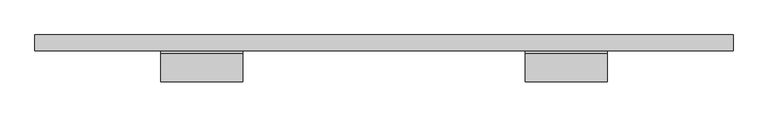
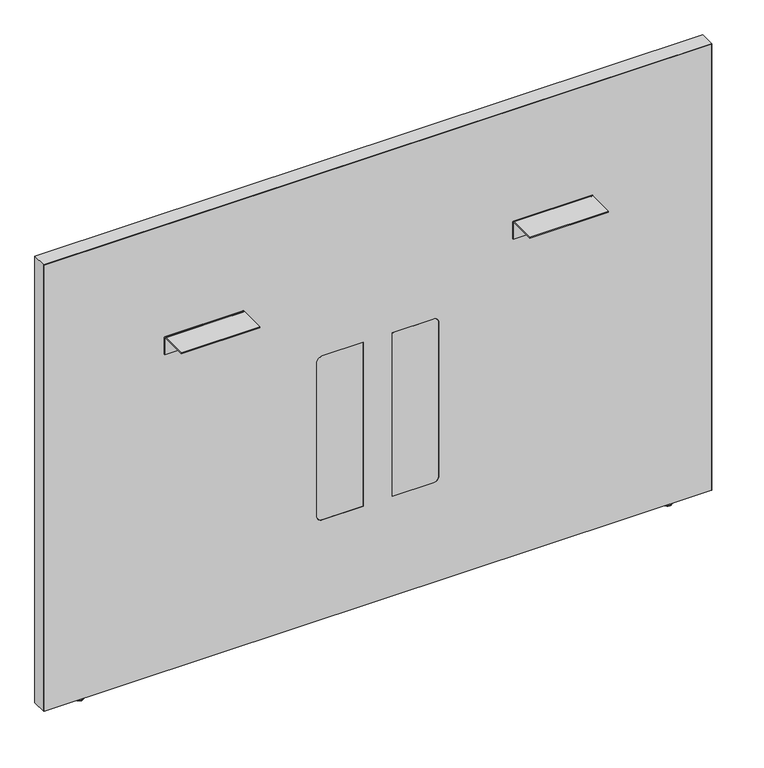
"""IFC4 building model written with IfcOpenShell, lengths in millimetres: furniture geometry, Steelcase - Answer Solution - Boundary Screen - Straight - Spanning : 36H x 51W."""

from ifc_helpers import new_model, si_unit, point, frame, frame_2d, origin, place, context, project, spatial, polyline, circle_curve, ellipse_curve, trimmed, segment, composite_curve, outline, extrude, source, transform, mapped, element, save
from ifc_brep_helpers import plane_surface, cylinder_surface, revolved_surface, advanced_brep


def furniture_a9efb115(model_context):
    return source(origin(), model_context, "Body", "SolidModel", [
        advanced_brep(
        [(-340.6902705, -14.8449166, 9.9059849), (-340.6902705, -5.9309607, 9.9059849), (-340.6902705, -23.7588726, 9.9059849), (-340.6902705, -5.9309607, 2.9673238), (-340.6902705, -23.7588726, 2.9673238), (-340.6902705, -6.8982978, 2.9673238), (-340.6902705, -22.7915354, 2.9673238), (-340.6902705, -6.8982978, 1.6569081), (-340.6902705, -22.7915354, 1.6569081), (-340.6902705, -8.5552059, 0.0), (-340.6902705, -21.1346274, 0.0), (-340.6902705, -14.8449166, 0.0)],
        [
            (0, 1),
            (1, 2, circle_curve(frame((-340.6902705, -14.8449166, 9.9059849), z_axis=(0.0, 0.0, 1.0), x_axis=(0.0, 1.0, 0.0)), 8.913956)),
            (2, 0),
            (2, 1, circle_curve(frame((-340.6902705, -14.8449166, 9.9059849), z_axis=(0.0, 0.0, 1.0), x_axis=(0.0, 1.0, 0.0)), 8.913956)),
            (1, 3),
            (3, 4, circle_curve(frame((-340.6902705, -14.8449166, 2.9673238), z_axis=(0.0, 0.0, 1.0), x_axis=(0.0, 1.0, 0.0)), 8.913956)),
            (4, 2),
            (4, 3, circle_curve(frame((-340.6902705, -14.8449166, 2.9673238), z_axis=(0.0, 0.0, 1.0), x_axis=(0.0, 1.0, 0.0)), 8.913956)),
            (3, 5),
            (5, 6, circle_curve(frame((-340.6902705, -14.8449166, 2.9673238), z_axis=(0.0, 0.0, 1.0), x_axis=(0.0, 1.0, 0.0)), 7.9466188)),
            (6, 4),
            (6, 5, circle_curve(frame((-340.6902705, -14.8449166, 2.9673238), z_axis=(0.0, 0.0, 1.0), x_axis=(0.0, 1.0, 0.0)), 7.9466188)),
            (5, 7),
            (7, 8, circle_curve(frame((-340.6902705, -14.8449166, 1.6569081), z_axis=(0.0, 0.0, 1.0), x_axis=(0.0, 1.0, 0.0)), 7.9466188)),
            (8, 6),
            (8, 7, circle_curve(frame((-340.6902705, -14.8449166, 1.6569081), z_axis=(0.0, 0.0, 1.0), x_axis=(0.0, 1.0, 0.0)), 7.9466188)),
            (7, 9, circle_curve(frame((-340.6902705, -8.5552059, 1.6569081), z_axis=(-1.0, 0.0, 0.0), x_axis=(0.0, 1.0, 0.0)), 1.6569081)),
            (9, 10, circle_curve(frame((-340.6902705, -14.8449166, 0.0), z_axis=(0.0, 0.0, 1.0), x_axis=(0.0, 1.0, 0.0)), 6.2897107)),
            (10, 8, circle_curve(frame((-340.6902705, -21.1346274, 1.6569081), z_axis=(-1.0, 0.0, 0.0), x_axis=(0.0, -1.0, 0.0)), 1.6569081)),
            (10, 9, circle_curve(frame((-340.6902705, -14.8449166, 0.0), z_axis=(0.0, 0.0, 1.0), x_axis=(0.0, 1.0, 0.0)), 6.2897107)),
            (9, 11),
            (11, 10),
        ],
        [
            plane_surface(frame((-340.6902705, -14.8449166, 9.9059849), z_axis=(0.0, 0.0, 1.0), x_axis=(0.0, 1.0, 0.0))),
            cylinder_surface(frame((-340.6902705, -14.8449166, 9.9059849), z_axis=(0.0, 0.0, 1.0), x_axis=(0.0, 1.0, 0.0)), 8.913956),
            plane_surface(frame((-340.6902705, -14.8449166, 2.9673238), z_axis=(0.0, 0.0, -1.0), x_axis=(0.0, 1.0, 0.0))),
            cylinder_surface(frame((-340.6902705, -14.8449166, 9.9059849), z_axis=(0.0, 0.0, 1.0), x_axis=(0.0, 1.0, 0.0)), 7.9466188),
            revolved_surface(trimmed(ellipse_curve(frame((-340.6902705, -8.5552059, 1.6569081), z_axis=(1.0, 0.0, 0.0), x_axis=(0.0, 1.0, 0.0)), 1.6569081, 1.6569081), [point((-340.6902705, -8.5552059, 0.0))], [point((-340.6902705, -6.8982978, 1.6569081))], True, "CARTESIAN"), (-340.6902705, -14.8449166, 9.9059849), (0.0, 0.0, 1.0)),
            plane_surface(frame((-340.6902705, -14.8449166, 0.0), z_axis=(0.0, 0.0, -1.0), x_axis=(0.0, 1.0, 0.0))),
        ],
        [
            (0, [[1, 2, 3]]),
            (0, [[-3, 4, -1]]),
            (1, [[-2, 5, 6, 7]]),
            (1, [[-4, -7, 8, -5]]),
            (2, [[-6, 9, 10, 11]]),
            (2, [[-8, -11, 12, -9]]),
            (3, [[-10, 13, 14, 15]]),
            (3, [[-12, -15, 16, -13]]),
            (4, [[-14, 17, 18, 19]]),
            (4, [[-16, -19, 20, -17]]),
            (5, [[-18, 21, 22]]),
            (5, [[-20, -22, -21]]),
        ],
    ),
        extrude(outline(composite_curve([segment(polyline([(-86.8398151, 696.4680019), (-86.8398151, 698.5), (-34.9450855, 698.5)]), True, "CONTINUOUS"), segment(trimmed(circle_curve(frame_2d((-34.9450855, 693.2447477)), 5.2552523), [point((-34.9450855, 698.5))], [point((-29.6898332, 693.2447477))], False, "CARTESIAN"), True, "CONTINUOUS"), segment(polyline([(-29.6898332, 693.2447477), (-29.6898332, 660.4), (-31.7218162, 660.4), (-31.7218162, 693.0058743)]), True, "CONTINUOUS"), segment(trimmed(circle_curve(frame_2d((-35.1839438, 693.0058743)), 3.4621276), [point((-31.7218162, 693.0058743))], [point((-35.1839438, 696.4680019))], True, "CARTESIAN"), True, "CONTINUOUS"), segment(polyline([(-35.1839438, 696.4680019), (-86.8398151, 696.4680019)]), True, "CONTINUOUS")], self_intersect=False)), frame((491.6282189, 0.0, 0.0), z_axis=(1.0, 0.0, 0.0), x_axis=(0.0, 1.0, 0.0)), (0.0, 0.0, 1.0), 152.4000969),
        extrude(outline(composite_curve([segment(polyline([(-86.8398151, 696.4680019), (-86.8398151, 698.5), (-34.9450855, 698.5)]), True, "CONTINUOUS"), segment(trimmed(circle_curve(frame_2d((-34.9450855, 693.2447477)), 5.2552523), [point((-34.9450855, 698.5))], [point((-29.6898332, 693.2447477))], False, "CARTESIAN"), True, "CONTINUOUS"), segment(polyline([(-29.6898332, 693.2447477), (-29.6898332, 660.4), (-31.7218162, 660.4), (-31.7218162, 693.0058743)]), True, "CONTINUOUS"), segment(trimmed(circle_curve(frame_2d((-35.1839438, 693.0058743)), 3.4621276), [point((-31.7218162, 693.0058743))], [point((-35.1839438, 696.4680019))], True, "CARTESIAN"), True, "CONTINUOUS"), segment(polyline([(-35.1839438, 696.4680019), (-86.8398151, 696.4680019)]), True, "CONTINUOUS")], self_intersect=False)), frame((-184.3884581, 0.0, 0.0), z_axis=(1.0, 0.0, 0.0), x_axis=(0.0, 1.0, 0.0)), (0.0, 0.0, 1.0), 152.4000969),
        advanced_brep(
        [(800.3286488, -23.7588726, 9.9059849), (800.3286488, -5.9309607, 9.9059849), (800.3286488, -14.8449166, 9.9059849), (800.3286488, -23.7588726, 2.9673238), (800.3286488, -5.9309607, 2.9673238), (800.3286488, -22.7915354, 2.9673238), (800.3286488, -6.8982978, 2.9673238), (800.3286488, -22.7915354, 1.6569081), (800.3286488, -6.8982978, 1.6569081), (800.3286488, -21.1346274, 0.0), (800.3286488, -8.5552059, 0.0), (800.3286488, -14.8449166, 0.0)],
        [
            (0, 1, circle_curve(frame((800.3286488, -14.8449166, 9.9059849), z_axis=(0.0, 0.0, 1.0), x_axis=(0.0, 1.0, 0.0)), 8.913956)),
            (1, 2),
            (2, 0),
            (1, 0, circle_curve(frame((800.3286488, -14.8449166, 9.9059849), z_axis=(0.0, 0.0, 1.0), x_axis=(0.0, 1.0, 0.0)), 8.913956)),
            (3, 4, circle_curve(frame((800.3286488, -14.8449166, 2.9673238), z_axis=(0.0, 0.0, 1.0), x_axis=(0.0, 1.0, 0.0)), 8.913956)),
            (4, 1),
            (0, 3),
            (4, 3, circle_curve(frame((800.3286488, -14.8449166, 2.9673238), z_axis=(0.0, 0.0, 1.0), x_axis=(0.0, 1.0, 0.0)), 8.913956)),
            (5, 6, circle_curve(frame((800.3286488, -14.8449166, 2.9673238), z_axis=(0.0, 0.0, 1.0), x_axis=(0.0, 1.0, 0.0)), 7.9466188)),
            (6, 4),
            (3, 5),
            (6, 5, circle_curve(frame((800.3286488, -14.8449166, 2.9673238), z_axis=(0.0, 0.0, 1.0), x_axis=(0.0, 1.0, 0.0)), 7.9466188)),
            (7, 8, circle_curve(frame((800.3286488, -14.8449166, 1.6569081), z_axis=(0.0, 0.0, 1.0), x_axis=(0.0, 1.0, 0.0)), 7.9466188)),
            (8, 6),
            (5, 7),
            (8, 7, circle_curve(frame((800.3286488, -14.8449166, 1.6569081), z_axis=(0.0, 0.0, 1.0), x_axis=(0.0, 1.0, 0.0)), 7.9466188)),
            (9, 10, circle_curve(frame((800.3286488, -14.8449166, 0.0), z_axis=(0.0, 0.0, 1.0), x_axis=(0.0, 1.0, 0.0)), 6.2897107)),
            (10, 8, circle_curve(frame((800.3286488, -8.5552059, 1.6569081), z_axis=(1.0, 0.0, 0.0), x_axis=(0.0, 1.0, 0.0)), 1.6569081)),
            (7, 9, circle_curve(frame((800.3286488, -21.1346274, 1.6569081), z_axis=(1.0, 0.0, 0.0), x_axis=(0.0, -1.0, 0.0)), 1.6569081)),
            (10, 9, circle_curve(frame((800.3286488, -14.8449166, 0.0), z_axis=(0.0, 0.0, 1.0), x_axis=(0.0, 1.0, 0.0)), 6.2897107)),
            (11, 10),
            (9, 11),
        ],
        [
            plane_surface(frame((800.3286488, -14.8449166, 9.9059849), z_axis=(0.0, 0.0, 1.0), x_axis=(0.0, 1.0, 0.0))),
            cylinder_surface(frame((800.3286488, -14.8449166, 9.9059849), z_axis=(0.0, 0.0, -1.0), x_axis=(0.0, 1.0, 0.0)), 8.913956),
            plane_surface(frame((800.3286488, -14.8449166, 2.9673238), z_axis=(0.0, 0.0, -1.0), x_axis=(0.0, 1.0, 0.0))),
            cylinder_surface(frame((800.3286488, -14.8449166, 9.9059849), z_axis=(0.0, 0.0, -1.0), x_axis=(0.0, 1.0, 0.0)), 7.9466188),
            revolved_surface(trimmed(ellipse_curve(frame((800.3286488, -8.5552059, 1.6569081), z_axis=(-1.0, 0.0, 0.0), x_axis=(0.0, 1.0, 0.0)), 1.6569081, 1.6569081), [point((800.3286488, -6.8982978, 1.6569081))], [point((800.3286488, -8.5552059, 0.0))], True, "CARTESIAN"), (800.3286488, -14.8449166, 9.9059849), (0.0, 0.0, -1.0)),
            plane_surface(frame((800.3286488, -14.8449166, 0.0), z_axis=(0.0, 0.0, -1.0), x_axis=(0.0, 1.0, 0.0))),
        ],
        [
            (0, [[1, 2, 3]]),
            (0, [[4, -3, -2]]),
            (1, [[5, 6, -1, 7]]),
            (1, [[8, -7, -4, -6]]),
            (2, [[9, 10, -5, 11]]),
            (2, [[12, -11, -8, -10]]),
            (3, [[13, 14, -9, 15]]),
            (3, [[16, -15, -12, -14]]),
            (4, [[17, 18, -13, 19]]),
            (4, [[20, -19, -16, -18]]),
            (5, [[21, -17, 22]]),
            (5, [[-22, -20, -21]]),
        ],
    ),
        advanced_brep(
        [(876.4780168, 0.0, 924.342118), (876.4780168, 0.0, 9.9059849), (-416.8902221, 0.0, 9.9059849), (-416.8902221, 0.0, 924.342118), (876.4780168, -29.6898332, 924.342118), (-416.8902221, -29.6898332, 924.342118), (-416.8902221, -29.6898332, 9.9059849), (876.4780168, -29.6898332, 9.9059849), (337.7883813, -29.6898332, 549.6162029), (347.9483813, -29.6898332, 539.4562029), (347.9483813, -29.6898332, 223.9362137), (337.7883813, -29.6898332, 213.7762137), (258.1344836, -29.6898332, 213.7762137), (258.1344836, -29.6898332, 549.6162029), (121.849997, -29.6898332, 549.6162029), (201.5038947, -29.6898332, 549.6162029), (201.5038947, -29.6898332, 213.7762137), (121.849997, -29.6898332, 213.7762137), (111.689997, -29.6898332, 223.9362137), (111.689997, -29.6898332, 539.4562029), (258.1344836, -29.0550397, 549.6162029), (337.7883813, -29.0550397, 549.6162029), (258.1344836, -29.0550397, 213.7762137), (337.7883813, -29.0550397, 213.7762137), (347.9483813, -29.0550397, 223.9362137), (347.9483813, -29.0550397, 539.4562029), (121.849997, -29.0550397, 549.6162029), (111.689997, -29.0550397, 539.4562029), (111.689997, -29.0550397, 223.9362137), (121.849997, -29.0550397, 213.7762137), (201.5038947, -29.0550397, 213.7762137), (201.5038947, -29.0550397, 549.6162029)],
        [
            (0, 1),
            (1, 2),
            (2, 3),
            (3, 0),
            (4, 5),
            (5, 6),
            (6, 7),
            (7, 4),
            (8, 9, circle_curve(frame((337.7883813, -29.6898332, 539.4562029), z_axis=(0.0, 1.0, 0.0), x_axis=(0.0, 0.0, 1.0)), 10.16)),
            (9, 10),
            (10, 11, circle_curve(frame((337.7883813, -29.6898332, 223.9362137), z_axis=(0.0, 1.0, 0.0), x_axis=(0.0, 0.0, 1.0)), 10.16)),
            (11, 12),
            (12, 13),
            (13, 8),
            (14, 15),
            (15, 16),
            (16, 17),
            (17, 18, circle_curve(frame((121.849997, -29.6898332, 223.9362137), z_axis=(0.0, 1.0, 0.0), x_axis=(0.0, 0.0, 1.0)), 10.16)),
            (18, 19),
            (19, 14, circle_curve(frame((121.849997, -29.6898332, 539.4562029), z_axis=(0.0, 1.0, 0.0), x_axis=(0.0, 0.0, 1.0)), 10.16)),
            (0, 4),
            (7, 1),
            (6, 2),
            (5, 3),
            (13, 20),
            (20, 21),
            (21, 8),
            (12, 22),
            (22, 20),
            (11, 23),
            (23, 22),
            (10, 24),
            (24, 23, circle_curve(frame((337.7883813, -29.0550397, 223.9362137), z_axis=(0.0, 1.0, 0.0), x_axis=(0.0, 0.0, 1.0)), 10.16)),
            (9, 25),
            (25, 24),
            (21, 25, circle_curve(frame((337.7883813, -29.0550397, 539.4562029), z_axis=(0.0, 1.0, 0.0), x_axis=(0.0, 0.0, 1.0)), 10.16)),
            (26, 27, circle_curve(frame((121.849997, -29.0550397, 539.4562029), z_axis=(0.0, -1.0, 0.0), x_axis=(0.0, 0.0, 1.0)), 10.16)),
            (27, 28),
            (28, 29, circle_curve(frame((121.849997, -29.0550397, 223.9362137), z_axis=(0.0, -1.0, 0.0), x_axis=(0.0, 0.0, 1.0)), 10.16)),
            (29, 30),
            (30, 31),
            (31, 26),
            (19, 27),
            (26, 14),
            (18, 28),
            (17, 29),
            (16, 30),
            (15, 31),
        ],
        [
            plane_surface(frame((876.4780168, 0.0, 924.342118), z_axis=(0.0, 1.0, 0.0), x_axis=(0.0, 0.0, -1.0))),
            plane_surface(frame((876.4780168, -29.6898332, 924.342118), z_axis=(0.0, -1.0, 0.0), x_axis=(0.0, 0.0, 1.0))),
            plane_surface(frame((876.4780168, 0.0, 924.342118), z_axis=(1.0, 0.0, 0.0), x_axis=(0.0, -1.0, 0.0))),
            plane_surface(frame((876.4780168, 0.0, 9.9059849), z_axis=(0.0, 0.0, -1.0), x_axis=(0.0, -1.0, 0.0))),
            plane_surface(frame((-416.8902221, 0.0, 9.9059849), z_axis=(-1.0, 0.0, 0.0), x_axis=(0.0, -1.0, 0.0))),
            plane_surface(frame((-416.8902221, 0.0, 924.342118), z_axis=(0.0, 0.0, 1.0), x_axis=(0.0, -1.0, 0.0))),
            plane_surface(frame((337.7883813, 0.0, 549.6162029), z_axis=(0.0, 0.0, -1.0), x_axis=(0.0, -1.0, 0.0))),
            plane_surface(frame((258.1344836, 0.0, 549.6162029), z_axis=(1.0, 0.0, 0.0), x_axis=(0.0, -1.0, 0.0))),
            plane_surface(frame((258.1344836, 0.0, 213.7762137), z_axis=(0.0, 0.0, 1.0), x_axis=(0.0, -1.0, 0.0))),
            revolved_surface(polyline([(337.7883813, -29.6898332, 234.0962137), (337.7883813, -29.0550397, 234.0962137)]), (337.7883813, -29.6898332, 223.9362137), (0.0, -1.0, 0.0)),
            plane_surface(frame((347.9483813, 0.0, 223.9362137), z_axis=(-1.0, 0.0, 0.0), x_axis=(0.0, -1.0, 0.0))),
            revolved_surface(polyline([(337.7883813, -29.6898332, 549.6162029), (337.7883813, -29.0550397, 549.6162029)]), (337.7883813, -29.6898332, 539.4562029), (0.0, -1.0, 0.0)),
            plane_surface(frame((347.9483813, -29.0550397, 549.6162029), z_axis=(0.0, -1.0, 0.0), x_axis=(0.0, 0.0, 1.0))),
            revolved_surface(polyline([(121.849997, -29.6898332, 549.6162029), (121.849997, -29.0550397, 549.6162029)]), (121.849997, -29.6898332, 539.4562029), (0.0, -1.0, 0.0)),
            plane_surface(frame((111.689997, 0.0, 539.4562029), z_axis=(1.0, 0.0, 0.0), x_axis=(0.0, -1.0, 0.0))),
            revolved_surface(polyline([(121.849997, -29.6898332, 234.0962137), (121.849997, -29.0550397, 234.0962137)]), (121.849997, -29.6898332, 223.9362137), (0.0, -1.0, 0.0)),
            plane_surface(frame((121.849997, 0.0, 213.7762137), z_axis=(0.0, 0.0, 1.0), x_axis=(0.0, -1.0, 0.0))),
            plane_surface(frame((201.5038947, 0.0, 213.7762137), z_axis=(-1.0, 0.0, 0.0), x_axis=(0.0, -1.0, 0.0))),
            plane_surface(frame((201.5038947, 0.0, 549.6162029), z_axis=(0.0, 0.0, -1.0), x_axis=(0.0, -1.0, 0.0))),
        ],
        [
            (0, [[1, 2, 3, 4]]),
            (1, [[5, 6, 7, 8], [9, 10, 11, 12, 13, 14], [15, 16, 17, 18, 19, 20]]),
            (2, [[-1, 21, -8, 22]]),
            (3, [[-2, -22, -7, 23]]),
            (4, [[-3, -23, -6, 24]]),
            (5, [[-4, -24, -5, -21]]),
            (6, [[-14, 25, 26, 27]]),
            (7, [[-13, 28, 29, -25]]),
            (8, [[-12, 30, 31, -28]]),
            (9, [[-11, 32, 33, -30]]),
            (10, [[-10, 34, 35, -32]]),
            (11, [[-9, -27, 36, -34]]),
            (12, [[-26, -29, -31, -33, -35, -36]]),
            (12, [[37, 38, 39, 40, 41, 42]]),
            (13, [[-20, 43, -37, 44]]),
            (14, [[-19, 45, -38, -43]]),
            (15, [[-18, 46, -39, -45]]),
            (16, [[-17, 47, -40, -46]]),
            (17, [[-16, 48, -41, -47]]),
            (18, [[-15, -44, -42, -48]]),
        ],
    ),
        extrude(outline(composite_curve([segment(polyline([(549.6162029, 337.7883813), (549.6162029, 258.1344836), (213.7762137, 258.1344836), (213.7762137, 337.7883813)]), True, "CONTINUOUS"), segment(trimmed(circle_curve(frame_2d((223.9362137, 337.7883813)), 10.16), [point((213.7762137, 337.7883813))], [point((223.9362137, 347.9483813))], False, "CARTESIAN"), True, "CONTINUOUS"), segment(polyline([(223.9362137, 347.9483813), (539.4562029, 347.9483813)]), True, "CONTINUOUS"), segment(trimmed(circle_curve(frame_2d((539.4562029, 337.7883813)), 10.16), [point((539.4562029, 347.9483813))], [point((549.6162029, 337.7883813))], False, "CARTESIAN"), True, "CONTINUOUS")], self_intersect=False)), frame((0.0, -29.6898332, 0.0), z_axis=(0.0, 1.0, 0.0), x_axis=(0.0, 0.0, 1.0)), (0.0, 0.0, 1.0), 0.6347935),
        extrude(outline(composite_curve([segment(trimmed(circle_curve(frame_2d((539.4562029, 121.849997)), 10.16), [point((549.6162029, 121.849997))], [point((539.4562029, 111.689997))], False, "CARTESIAN"), True, "CONTINUOUS"), segment(polyline([(539.4562029, 111.689997), (223.9362137, 111.689997)]), True, "CONTINUOUS"), segment(trimmed(circle_curve(frame_2d((223.9362137, 121.849997)), 10.16), [point((223.9362137, 111.689997))], [point((213.7762137, 121.849997))], False, "CARTESIAN"), True, "CONTINUOUS"), segment(polyline([(213.7762137, 121.849997), (213.7762137, 201.5038947), (549.6162029, 201.5038947), (549.6162029, 121.849997)]), True, "CONTINUOUS")], self_intersect=False)), frame((0.0, -29.6898332, 0.0), z_axis=(0.0, 1.0, 0.0), x_axis=(0.0, 0.0, 1.0)), (0.0, 0.0, 1.0), 0.6347935),
        extrude(outline(polyline([(925.322, 877.5191891), (925.322, -417.8808109), (9.9059849, -417.8808109), (9.9059849, -416.8902221), (924.342118, -416.8902221), (924.342118, 876.4780168), (9.9059849, 876.4780168), (9.9059849, 877.5191891), (925.322, 877.5191891)])), frame((0.0, -29.6898332, 0.0), z_axis=(0.0, 1.0, 0.0), x_axis=(0.0, 0.0, 1.0)), (0.0, 0.0, 1.0), 29.6898332),
    ])


if __name__ == "__main__":
    model = new_model("IFC4")
    model_context = context("Model", 3, world=origin())
    ifc_project = project(units=[si_unit("LENGTHUNIT", "METRE", prefix="MILLI")], contexts=[model_context])
    site = spatial("IfcSite", under=ifc_project)
    building = spatial("IfcBuilding", under=site)
    placement = place(None, origin())
    furniture_shape = furniture_a9efb115(model_context)
    element("IfcFurniture", 1, ObjectType="Steelcase - Answer Solution - Boundary Screen - Straight - Spanning : 36H x 51W", at=placement, inside=building, context=model_context, shape_type="MappedRepresentation", body=[
        mapped(furniture_shape, transform((0.0, 0.0, 0.0), x_axis=(1.0, 0.0, 0.0), y_axis=(0.0, 1.0, 0.0), z_axis=(0.0, 0.0, 1.0))),
    ])
    save(model, "model.ifc")
